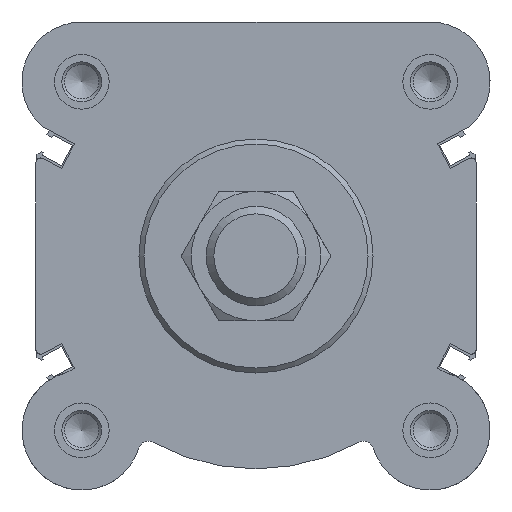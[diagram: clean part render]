
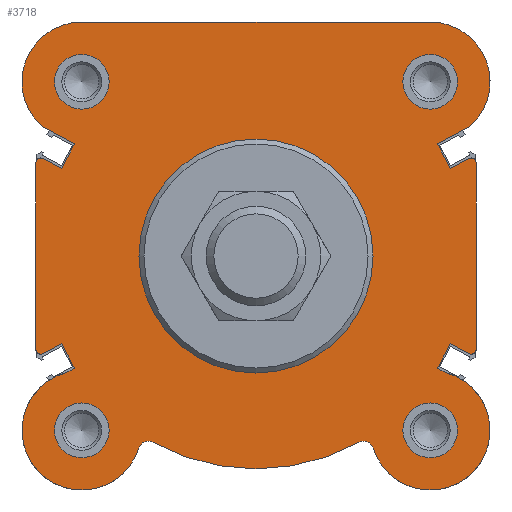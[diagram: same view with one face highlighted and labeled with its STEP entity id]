
A CAD part, left-side view. The second image highlights one B-rep face of the part: STEP entity #3718.
In plain terms, the highlighted planar face has unit normal (-1, 0, 0).
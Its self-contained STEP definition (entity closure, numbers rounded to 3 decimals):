
#160=LINE('',#5739,#482);
#164=LINE('',#5751,#486);
#168=LINE('',#5759,#490);
#171=LINE('',#5765,#493);
#175=LINE('',#5776,#497);
#178=LINE('',#5786,#500);
#181=LINE('',#5792,#503);
#184=LINE('',#5798,#506);
#192=LINE('',#5827,#514);
#195=LINE('',#5833,#517);
#198=LINE('',#5839,#520);
#202=LINE('',#5850,#524);
#205=LINE('',#5860,#527);
#208=LINE('',#5866,#530);
#211=LINE('',#5872,#533);
#482=VECTOR('',#4541,1000.);
#486=VECTOR('',#4553,1000.);
#490=VECTOR('',#4559,1000.);
#493=VECTOR('',#4564,1000.);
#497=VECTOR('',#4576,1000.);
#500=VECTOR('',#4587,1000.);
#503=VECTOR('',#4592,1000.);
#506=VECTOR('',#4597,1000.);
#514=VECTOR('',#4631,1000.);
#517=VECTOR('',#4636,1000.);
#520=VECTOR('',#4641,1000.);
#524=VECTOR('',#4653,1000.);
#527=VECTOR('',#4664,1000.);
#530=VECTOR('',#4669,1000.);
#533=VECTOR('',#4674,1000.);
#1018=ORIENTED_EDGE('',*,*,#2013,.F.);
#1019=ORIENTED_EDGE('',*,*,#2014,.F.);
#1020=ORIENTED_EDGE('',*,*,#2015,.F.);
#1021=ORIENTED_EDGE('',*,*,#2016,.F.);
#1022=ORIENTED_EDGE('',*,*,#2017,.F.);
#1023=ORIENTED_EDGE('',*,*,#1927,.F.);
#1024=ORIENTED_EDGE('',*,*,#2001,.F.);
#1025=ORIENTED_EDGE('',*,*,#1998,.F.);
#1026=ORIENTED_EDGE('',*,*,#1995,.F.);
#1027=ORIENTED_EDGE('',*,*,#1992,.F.);
#1028=ORIENTED_EDGE('',*,*,#1990,.F.);
#1029=ORIENTED_EDGE('',*,*,#1987,.F.);
#1030=ORIENTED_EDGE('',*,*,#1984,.F.);
#1031=ORIENTED_EDGE('',*,*,#1981,.F.);
#1032=ORIENTED_EDGE('',*,*,#1978,.F.);
#1033=ORIENTED_EDGE('',*,*,#1975,.F.);
#1034=ORIENTED_EDGE('',*,*,#1973,.T.);
#1035=ORIENTED_EDGE('',*,*,#1971,.F.);
#1036=ORIENTED_EDGE('',*,*,#1969,.T.);
#1037=ORIENTED_EDGE('',*,*,#1966,.F.);
#1038=ORIENTED_EDGE('',*,*,#1963,.F.);
#1039=ORIENTED_EDGE('',*,*,#1960,.F.);
#1040=ORIENTED_EDGE('',*,*,#1957,.F.);
#1041=ORIENTED_EDGE('',*,*,#1954,.F.);
#1042=ORIENTED_EDGE('',*,*,#1952,.F.);
#1043=ORIENTED_EDGE('',*,*,#1949,.F.);
#1044=ORIENTED_EDGE('',*,*,#1946,.F.);
#1045=ORIENTED_EDGE('',*,*,#1943,.F.);
#1046=ORIENTED_EDGE('',*,*,#1939,.F.);
#1047=ORIENTED_EDGE('',*,*,#1936,.F.);
#1048=ORIENTED_EDGE('',*,*,#1933,.F.);
#1927=EDGE_CURVE('',#2447,#2448,#2757,.T.);
#1933=EDGE_CURVE('',#2448,#2453,#160,.T.);
#1936=EDGE_CURVE('',#2453,#2455,#2761,.T.);
#1939=EDGE_CURVE('',#2455,#2457,#164,.T.);
#1943=EDGE_CURVE('',#2457,#2460,#168,.T.);
#1946=EDGE_CURVE('',#2460,#2462,#171,.T.);
#1949=EDGE_CURVE('',#2462,#2464,#2763,.T.);
#1952=EDGE_CURVE('',#2464,#2465,#175,.T.);
#1954=EDGE_CURVE('',#2465,#2466,#2765,.T.);
#1957=EDGE_CURVE('',#2466,#2468,#178,.T.);
#1960=EDGE_CURVE('',#2468,#2470,#181,.T.);
#1963=EDGE_CURVE('',#2470,#2472,#184,.T.);
#1966=EDGE_CURVE('',#2472,#2474,#2767,.T.);
#1969=EDGE_CURVE('',#2475,#2474,#2769,.T.);
#1971=EDGE_CURVE('',#2475,#2476,#2770,.T.);
#1973=EDGE_CURVE('',#2477,#2476,#2771,.T.);
#1975=EDGE_CURVE('',#2477,#2478,#2772,.T.);
#1978=EDGE_CURVE('',#2478,#2480,#192,.T.);
#1981=EDGE_CURVE('',#2480,#2482,#195,.T.);
#1984=EDGE_CURVE('',#2482,#2484,#198,.T.);
#1987=EDGE_CURVE('',#2484,#2486,#2774,.T.);
#1990=EDGE_CURVE('',#2486,#2487,#202,.T.);
#1992=EDGE_CURVE('',#2487,#2488,#2776,.T.);
#1995=EDGE_CURVE('',#2488,#2490,#205,.T.);
#1998=EDGE_CURVE('',#2490,#2492,#208,.T.);
#2001=EDGE_CURVE('',#2492,#2447,#211,.T.);
#2013=EDGE_CURVE('',#2503,#2503,#2783,.T.);
#2014=EDGE_CURVE('',#2504,#2504,#2784,.T.);
#2015=EDGE_CURVE('',#2505,#2505,#2785,.T.);
#2016=EDGE_CURVE('',#2506,#2506,#2786,.T.);
#2017=EDGE_CURVE('',#2507,#2507,#2787,.F.);
#2447=VERTEX_POINT('',#5727);
#2448=VERTEX_POINT('',#5728);
#2453=VERTEX_POINT('',#5740);
#2455=VERTEX_POINT('',#5746);
#2457=VERTEX_POINT('',#5752);
#2460=VERTEX_POINT('',#5760);
#2462=VERTEX_POINT('',#5766);
#2464=VERTEX_POINT('',#5772);
#2465=VERTEX_POINT('',#5777);
#2466=VERTEX_POINT('',#5781);
#2468=VERTEX_POINT('',#5787);
#2470=VERTEX_POINT('',#5793);
#2472=VERTEX_POINT('',#5799);
#2474=VERTEX_POINT('',#5805);
#2475=VERTEX_POINT('',#5810);
#2476=VERTEX_POINT('',#5814);
#2477=VERTEX_POINT('',#5818);
#2478=VERTEX_POINT('',#5822);
#2480=VERTEX_POINT('',#5828);
#2482=VERTEX_POINT('',#5834);
#2484=VERTEX_POINT('',#5840);
#2486=VERTEX_POINT('',#5846);
#2487=VERTEX_POINT('',#5851);
#2488=VERTEX_POINT('',#5855);
#2490=VERTEX_POINT('',#5861);
#2492=VERTEX_POINT('',#5867);
#2503=VERTEX_POINT('',#5896);
#2504=VERTEX_POINT('',#5898);
#2505=VERTEX_POINT('',#5900);
#2506=VERTEX_POINT('',#5902);
#2507=VERTEX_POINT('',#5904);
#2757=CIRCLE('',#4017,12.);
#2761=CIRCLE('',#4023,12.);
#2763=CIRCLE('',#4029,1.);
#2765=CIRCLE('',#4033,1.);
#2767=CIRCLE('',#4039,12.);
#2769=CIRCLE('',#4042,2.);
#2770=CIRCLE('',#4044,42.75);
#2771=CIRCLE('',#4046,2.);
#2772=CIRCLE('',#4048,12.);
#2774=CIRCLE('',#4054,1.);
#2776=CIRCLE('',#4058,1.);
#2783=CIRCLE('',#4070,5.5);
#2784=CIRCLE('',#4071,5.5);
#2785=CIRCLE('',#4072,5.5);
#2786=CIRCLE('',#4073,5.5);
#2787=CIRCLE('',#4074,23.5);
#2942=EDGE_LOOP('',(#1018));
#2943=EDGE_LOOP('',(#1019));
#2944=EDGE_LOOP('',(#1020));
#2945=EDGE_LOOP('',(#1021));
#2946=EDGE_LOOP('',(#1022));
#2947=EDGE_LOOP('',(#1023,#1024,#1025,#1026,#1027,#1028,#1029,#1030,#1031,
#1032,#1033,#1034,#1035,#1036,#1037,#1038,#1039,#1040,#1041,#1042,#1043,
#1044,#1045,#1046,#1047,#1048));
#3258=FACE_BOUND('',#2942,.T.);
#3259=FACE_BOUND('',#2943,.T.);
#3260=FACE_BOUND('',#2944,.T.);
#3261=FACE_BOUND('',#2945,.T.);
#3262=FACE_BOUND('',#2946,.T.);
#3263=FACE_BOUND('',#2947,.T.);
#3564=PLANE('',#4069);
#3718=ADVANCED_FACE('',(#3258,#3259,#3260,#3261,#3262,#3263),#3564,.F.);
#4017=AXIS2_PLACEMENT_3D('',#5726,#4529,#4530);
#4023=AXIS2_PLACEMENT_3D('',#5745,#4546,#4547);
#4029=AXIS2_PLACEMENT_3D('',#5771,#4569,#4570);
#4033=AXIS2_PLACEMENT_3D('',#5780,#4580,#4581);
#4039=AXIS2_PLACEMENT_3D('',#5804,#4602,#4603);
#4042=AXIS2_PLACEMENT_3D('',#5809,#4609,#4610);
#4044=AXIS2_PLACEMENT_3D('',#5813,#4614,#4615);
#4046=AXIS2_PLACEMENT_3D('',#5817,#4619,#4620);
#4048=AXIS2_PLACEMENT_3D('',#5821,#4624,#4625);
#4054=AXIS2_PLACEMENT_3D('',#5845,#4646,#4647);
#4058=AXIS2_PLACEMENT_3D('',#5854,#4657,#4658);
#4069=AXIS2_PLACEMENT_3D('',#5894,#4693,#4694);
#4070=AXIS2_PLACEMENT_3D('',#5895,#4695,#4696);
#4071=AXIS2_PLACEMENT_3D('',#5897,#4697,#4698);
#4072=AXIS2_PLACEMENT_3D('',#5899,#4699,#4700);
#4073=AXIS2_PLACEMENT_3D('',#5901,#4701,#4702);
#4074=AXIS2_PLACEMENT_3D('',#5903,#4703,#4704);
#4529=DIRECTION('',(1.,0.,0.));
#4530=DIRECTION('',(0.,0.,-1.));
#4541=DIRECTION('',(0.,-1.,0.));
#4546=DIRECTION('',(1.,0.,0.));
#4547=DIRECTION('',(0.,0.,-1.));
#4553=DIRECTION('',(0.,0.883,-0.469));
#4559=DIRECTION('',(0.,-0.469,-0.883));
#4564=DIRECTION('',(0.,-0.883,0.469));
#4569=DIRECTION('',(1.,0.,0.));
#4570=DIRECTION('',(0.,0.,-1.));
#4576=DIRECTION('',(0.,0.,-1.));
#4580=DIRECTION('',(1.,0.,0.));
#4581=DIRECTION('',(0.,0.,-1.));
#4587=DIRECTION('',(0.,0.883,0.469));
#4592=DIRECTION('',(0.,0.469,-0.883));
#4597=DIRECTION('',(0.,-0.883,-0.469));
#4602=DIRECTION('',(1.,0.,0.));
#4603=DIRECTION('',(0.,0.,-1.));
#4609=DIRECTION('',(1.,0.,0.));
#4610=DIRECTION('',(0.,0.,-1.));
#4614=DIRECTION('',(1.,0.,0.));
#4615=DIRECTION('',(0.,0.,-1.));
#4619=DIRECTION('',(1.,0.,0.));
#4620=DIRECTION('',(0.,0.,-1.));
#4624=DIRECTION('',(1.,0.,0.));
#4625=DIRECTION('',(0.,0.,-1.));
#4631=DIRECTION('',(0.,-0.883,0.469));
#4636=DIRECTION('',(0.,0.469,0.883));
#4641=DIRECTION('',(0.,0.883,-0.469));
#4646=DIRECTION('',(1.,0.,0.));
#4647=DIRECTION('',(0.,0.,-1.));
#4653=DIRECTION('',(0.,0.,1.));
#4657=DIRECTION('',(1.,0.,0.));
#4658=DIRECTION('',(0.,0.,-1.));
#4664=DIRECTION('',(0.,-0.883,-0.469));
#4669=DIRECTION('',(0.,-0.469,0.883));
#4674=DIRECTION('',(0.,0.883,0.469));
#4693=DIRECTION('',(1.,0.,0.));
#4694=DIRECTION('',(0.,0.,-1.));
#4695=DIRECTION('',(-1.,0.,0.));
#4696=DIRECTION('',(0.,0.,1.));
#4697=DIRECTION('',(-1.,0.,0.));
#4698=DIRECTION('',(0.,0.,1.));
#4699=DIRECTION('',(-1.,0.,0.));
#4700=DIRECTION('',(0.,0.,1.));
#4701=DIRECTION('',(-1.,0.,0.));
#4702=DIRECTION('',(0.,0.,1.));
#4703=DIRECTION('',(1.,0.,0.));
#4704=DIRECTION('',(0.,0.,-1.));
#5726=CARTESIAN_POINT('',(0.,35.,35.));
#5727=CARTESIAN_POINT('',(0.,42.941,26.003));
#5728=CARTESIAN_POINT('',(0.,35.,47.));
#5739=CARTESIAN_POINT('',(0.,35.,47.));
#5740=CARTESIAN_POINT('',(0.,-35.,47.));
#5745=CARTESIAN_POINT('',(0.,-35.,35.));
#5746=CARTESIAN_POINT('',(0.,-42.941,26.003));
#5751=CARTESIAN_POINT('',(0.,-42.941,26.003));
#5752=CARTESIAN_POINT('',(0.,-36.431,22.542));
#5759=CARTESIAN_POINT('',(0.,-36.431,22.542));
#5760=CARTESIAN_POINT('',(0.,-39.061,17.598));
#5765=CARTESIAN_POINT('',(0.,-39.061,17.598));
#5766=CARTESIAN_POINT('',(0.,-42.781,19.576));
#5771=CARTESIAN_POINT('',(0.,-43.25,18.693));
#5772=CARTESIAN_POINT('',(0.,-44.25,18.693));
#5776=CARTESIAN_POINT('',(0.,-44.25,18.693));
#5777=CARTESIAN_POINT('',(0.,-44.25,-18.693));
#5780=CARTESIAN_POINT('',(0.,-43.25,-18.693));
#5781=CARTESIAN_POINT('',(0.,-42.781,-19.576));
#5786=CARTESIAN_POINT('',(0.,-42.781,-19.576));
#5787=CARTESIAN_POINT('',(0.,-39.061,-17.598));
#5792=CARTESIAN_POINT('',(0.,-39.061,-17.598));
#5793=CARTESIAN_POINT('',(0.,-36.431,-22.542));
#5798=CARTESIAN_POINT('',(0.,-36.431,-22.542));
#5799=CARTESIAN_POINT('',(0.,-38.018,-23.386));
#5804=CARTESIAN_POINT('',(0.,-35.,-35.));
#5805=CARTESIAN_POINT('',(0.,-23.545,-38.576));
#5809=CARTESIAN_POINT('',(0.,-21.636,-39.172));
#5810=CARTESIAN_POINT('',(0.,-20.669,-37.421));
#5813=CARTESIAN_POINT('',(0.,0.,0.));
#5814=CARTESIAN_POINT('',(0.,20.669,-37.421));
#5817=CARTESIAN_POINT('',(0.,21.636,-39.172));
#5818=CARTESIAN_POINT('',(0.,23.545,-38.576));
#5821=CARTESIAN_POINT('',(0.,35.,-35.));
#5822=CARTESIAN_POINT('',(0.,38.018,-23.386));
#5827=CARTESIAN_POINT('',(0.,38.018,-23.386));
#5828=CARTESIAN_POINT('',(0.,36.431,-22.542));
#5833=CARTESIAN_POINT('',(0.,36.431,-22.542));
#5834=CARTESIAN_POINT('',(0.,39.061,-17.598));
#5839=CARTESIAN_POINT('',(0.,39.061,-17.598));
#5840=CARTESIAN_POINT('',(0.,42.781,-19.576));
#5845=CARTESIAN_POINT('',(0.,43.25,-18.693));
#5846=CARTESIAN_POINT('',(0.,44.25,-18.693));
#5850=CARTESIAN_POINT('',(0.,44.25,-18.693));
#5851=CARTESIAN_POINT('',(0.,44.25,18.693));
#5854=CARTESIAN_POINT('',(0.,43.25,18.693));
#5855=CARTESIAN_POINT('',(0.,42.781,19.576));
#5860=CARTESIAN_POINT('',(0.,42.781,19.576));
#5861=CARTESIAN_POINT('',(0.,39.061,17.598));
#5866=CARTESIAN_POINT('',(0.,39.061,17.598));
#5867=CARTESIAN_POINT('',(0.,36.431,22.542));
#5872=CARTESIAN_POINT('',(0.,36.431,22.542));
#5894=CARTESIAN_POINT('',(0.,35.,35.));
#5895=CARTESIAN_POINT('',(0.,-35.,-35.));
#5896=CARTESIAN_POINT('',(0.,-35.,-29.5));
#5897=CARTESIAN_POINT('',(0.,35.,-35.));
#5898=CARTESIAN_POINT('',(0.,35.,-29.5));
#5899=CARTESIAN_POINT('',(0.,35.,35.));
#5900=CARTESIAN_POINT('',(0.,35.,40.5));
#5901=CARTESIAN_POINT('',(0.,-35.,35.));
#5902=CARTESIAN_POINT('',(0.,-35.,40.5));
#5903=CARTESIAN_POINT('',(0.,0.,0.));
#5904=CARTESIAN_POINT('',(0.,0.,-23.5));
